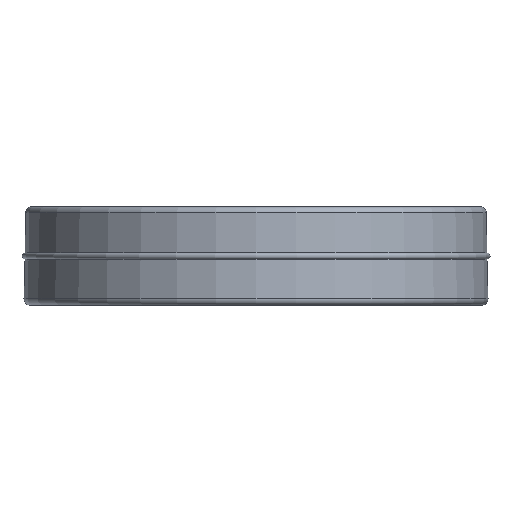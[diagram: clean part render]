
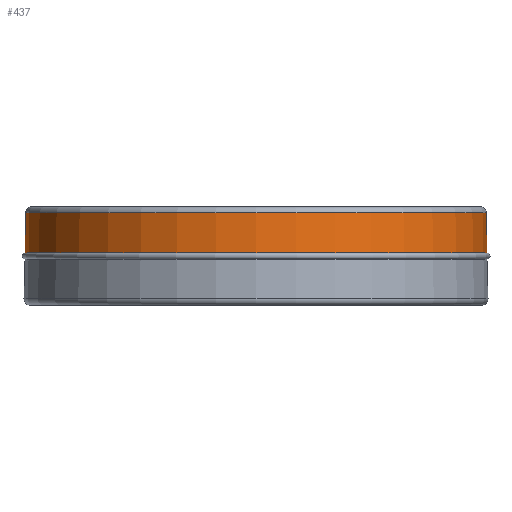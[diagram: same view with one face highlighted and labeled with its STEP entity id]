
A CAD part, front view. The second image highlights one B-rep face of the part: STEP entity #437.
In plain terms, the highlighted conical face has half-angle 0.942 degrees and reference radius 75.782 mm.
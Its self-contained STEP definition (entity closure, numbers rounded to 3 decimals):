
#50 = CARTESIAN_POINT ( 'NONE',  ( 76., 0., 49. ) ) ;
#57 = CARTESIAN_POINT ( 'NONE',  ( -76., 0., 49. ) ) ;
#117 = EDGE_CURVE ( 'NONE', #833, #882, #836, .T. ) ;
#131 = DIRECTION ( 'NONE',  ( 1., 0., 0. ) ) ;
#226 = CIRCLE ( 'NONE', #1183, 76. ) ;
#267 = ORIENTED_EDGE ( 'NONE', *, *, #560, .T. ) ;
#272 = ORIENTED_EDGE ( 'NONE', *, *, #1153, .T. ) ;
#316 = DIRECTION ( 'NONE',  ( 0., 0., -1. ) ) ;
#318 = CARTESIAN_POINT ( 'NONE',  ( 0., 0., 62.233 ) ) ;
#375 = CARTESIAN_POINT ( 'NONE',  ( 75.782, 0., 62.233 ) ) ;
#404 = CONICAL_SURFACE ( 'NONE', #710, 75.782, 0.016 ) ;
#437 = ADVANCED_FACE ( 'NONE', ( #658 ), #404, .T. ) ;
#503 = CARTESIAN_POINT ( 'NONE',  ( 0., 0., 49. ) ) ;
#560 = EDGE_CURVE ( 'NONE', #748, #760, #668, .T. ) ;
#583 = DIRECTION ( 'NONE',  ( 1., 0., 0. ) ) ;
#584 = EDGE_LOOP ( 'NONE', ( #1106, #1182, #267, #272 ) ) ;
#601 = CARTESIAN_POINT ( 'NONE',  ( -75.782, 0., 62.233 ) ) ;
#658 = FACE_OUTER_BOUND ( 'NONE', #584, .T. ) ;
#663 = AXIS2_PLACEMENT_3D ( 'NONE', #318, #1052, #131 ) ;
#664 = CARTESIAN_POINT ( 'NONE',  ( 0., 0., 62.233 ) ) ;
#668 = LINE ( 'NONE', #601, #844 ) ;
#674 = CARTESIAN_POINT ( 'NONE',  ( 75.782, 0., 62.233 ) ) ;
#710 = AXIS2_PLACEMENT_3D ( 'NONE', #664, #316, #1140 ) ;
#748 = VERTEX_POINT ( 'NONE', #1181 ) ;
#749 = DIRECTION ( 'NONE',  ( 0.016, 0., -1. ) ) ;
#760 = VERTEX_POINT ( 'NONE', #57 ) ;
#830 = VECTOR ( 'NONE', #749, 1000. ) ;
#833 = VERTEX_POINT ( 'NONE', #674 ) ;
#836 = LINE ( 'NONE', #375, #830 ) ;
#844 = VECTOR ( 'NONE', #1043, 1000. ) ;
#882 = VERTEX_POINT ( 'NONE', #50 ) ;
#959 = DIRECTION ( 'NONE',  ( 0., 0., 1. ) ) ;
#1043 = DIRECTION ( 'NONE',  ( -0.016, 0., -1. ) ) ;
#1052 = DIRECTION ( 'NONE',  ( 0., 0., 1. ) ) ;
#1075 = CIRCLE ( 'NONE', #663, 75.782 ) ;
#1106 = ORIENTED_EDGE ( 'NONE', *, *, #117, .F. ) ;
#1140 = DIRECTION ( 'NONE',  ( -1., 0., 0. ) ) ;
#1153 = EDGE_CURVE ( 'NONE', #760, #882, #226, .T. ) ;
#1167 = EDGE_CURVE ( 'NONE', #748, #833, #1075, .T. ) ;
#1181 = CARTESIAN_POINT ( 'NONE',  ( -75.782, 0., 62.233 ) ) ;
#1182 = ORIENTED_EDGE ( 'NONE', *, *, #1167, .F. ) ;
#1183 = AXIS2_PLACEMENT_3D ( 'NONE', #503, #959, #583 ) ;
